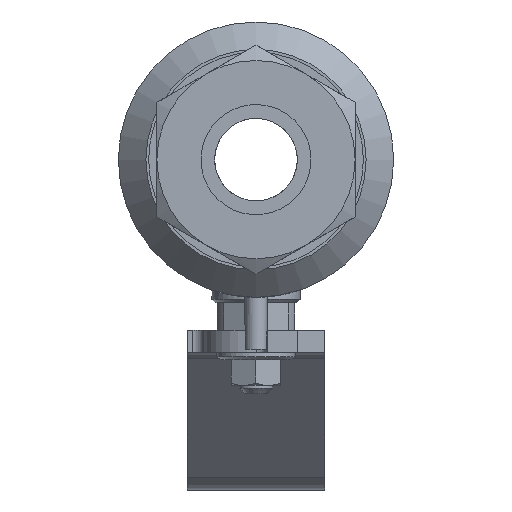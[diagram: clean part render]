
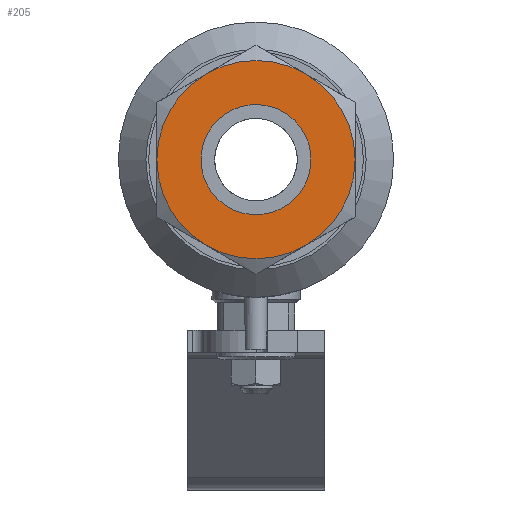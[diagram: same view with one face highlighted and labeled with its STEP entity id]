
A CAD part, left-side view. The second image highlights one B-rep face of the part: STEP entity #205.
In plain terms, the highlighted planar face has unit normal (-1, 0, 0).
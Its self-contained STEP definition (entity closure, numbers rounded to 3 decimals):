
#205=ADVANCED_FACE('',(#1162,#1164),#1166,.T.);
#1162=FACE_BOUND('',#1163,.T.);
#1163=EDGE_LOOP('',(#2594));
#1164=FACE_OUTER_BOUND('',#1165,.T.);
#1165=EDGE_LOOP('',(#2595,#2596,#2597,#2598,#2599,#2600));
#1166=PLANE('',#1167);
#1167=AXIS2_PLACEMENT_3D('',#1168,#1169,#1170);
#1168=CARTESIAN_POINT('',(-66.,0.,0.));
#1169=DIRECTION('',(-1.,0.,0.));
#1170=DIRECTION('',(0.,0.866,0.5));
#2594=ORIENTED_EDGE('',*,*,#3433,.T.);
#2595=ORIENTED_EDGE('',*,*,#3472,.F.);
#2596=ORIENTED_EDGE('',*,*,#3473,.F.);
#2597=ORIENTED_EDGE('',*,*,#3474,.F.);
#2598=ORIENTED_EDGE('',*,*,#3475,.F.);
#2599=ORIENTED_EDGE('',*,*,#3476,.F.);
#2600=ORIENTED_EDGE('',*,*,#3477,.F.);
#3433=EDGE_CURVE('',#4112,#4112,#4113,.T.);
#3472=EDGE_CURVE('',#4177,#4178,#4179,.T.);
#3473=EDGE_CURVE('',#4180,#4177,#4181,.T.);
#3474=EDGE_CURVE('',#4182,#4180,#4183,.T.);
#3475=EDGE_CURVE('',#4184,#4182,#4185,.T.);
#3476=EDGE_CURVE('',#4186,#4184,#4187,.T.);
#3477=EDGE_CURVE('',#4178,#4186,#4188,.T.);
#4112=VERTEX_POINT('',#6857);
#4113=CIRCLE('',#6858,10.);
#4177=VERTEX_POINT('',#7014);
#4178=VERTEX_POINT('',#7015);
#4179=CIRCLE('',#7016,18.);
#4180=VERTEX_POINT('',#7020);
#4181=CIRCLE('',#7021,18.);
#4182=VERTEX_POINT('',#7025);
#4183=CIRCLE('',#7026,18.);
#4184=VERTEX_POINT('',#7030);
#4185=CIRCLE('',#7031,18.);
#4186=VERTEX_POINT('',#7035);
#4187=CIRCLE('',#7036,18.);
#4188=CIRCLE('',#7040,18.);
#6857=CARTESIAN_POINT('',(-66.,4.416,8.972));
#6858=AXIS2_PLACEMENT_3D('',#6859,#6860,#6861);
#6859=CARTESIAN_POINT('',(-66.,0.,0.));
#6860=DIRECTION('',(1.,0.,0.));
#6861=DIRECTION('',(0.,0.442,0.897));
#7014=CARTESIAN_POINT('',(-66.,9.,-15.588));
#7015=CARTESIAN_POINT('',(-66.,18.,0.));
#7016=AXIS2_PLACEMENT_3D('',#7017,#7018,#7019);
#7017=CARTESIAN_POINT('',(-66.,0.,0.));
#7018=DIRECTION('',(1.,0.,0.));
#7019=DIRECTION('',(0.,0.5,-0.866));
#7020=CARTESIAN_POINT('',(-66.,-9.,-15.588));
#7021=AXIS2_PLACEMENT_3D('',#7022,#7023,#7024);
#7022=CARTESIAN_POINT('',(-66.,0.,0.));
#7023=DIRECTION('',(1.,0.,0.));
#7024=DIRECTION('',(0.,-0.5,-0.866));
#7025=CARTESIAN_POINT('',(-66.,-18.,0.));
#7026=AXIS2_PLACEMENT_3D('',#7027,#7028,#7029);
#7027=CARTESIAN_POINT('',(-66.,0.,0.));
#7028=DIRECTION('',(1.,0.,0.));
#7029=DIRECTION('',(0.,-1.,0.));
#7030=CARTESIAN_POINT('',(-66.,-9.,15.588));
#7031=AXIS2_PLACEMENT_3D('',#7032,#7033,#7034);
#7032=CARTESIAN_POINT('',(-66.,0.,0.));
#7033=DIRECTION('',(1.,0.,0.));
#7034=DIRECTION('',(0.,-0.5,0.866));
#7035=CARTESIAN_POINT('',(-66.,9.,15.588));
#7036=AXIS2_PLACEMENT_3D('',#7037,#7038,#7039);
#7037=CARTESIAN_POINT('',(-66.,0.,0.));
#7038=DIRECTION('',(1.,0.,0.));
#7039=DIRECTION('',(0.,0.5,0.866));
#7040=AXIS2_PLACEMENT_3D('',#7041,#7042,#7043);
#7041=CARTESIAN_POINT('',(-66.,0.,0.));
#7042=DIRECTION('',(1.,0.,0.));
#7043=DIRECTION('',(0.,1.,0.));
